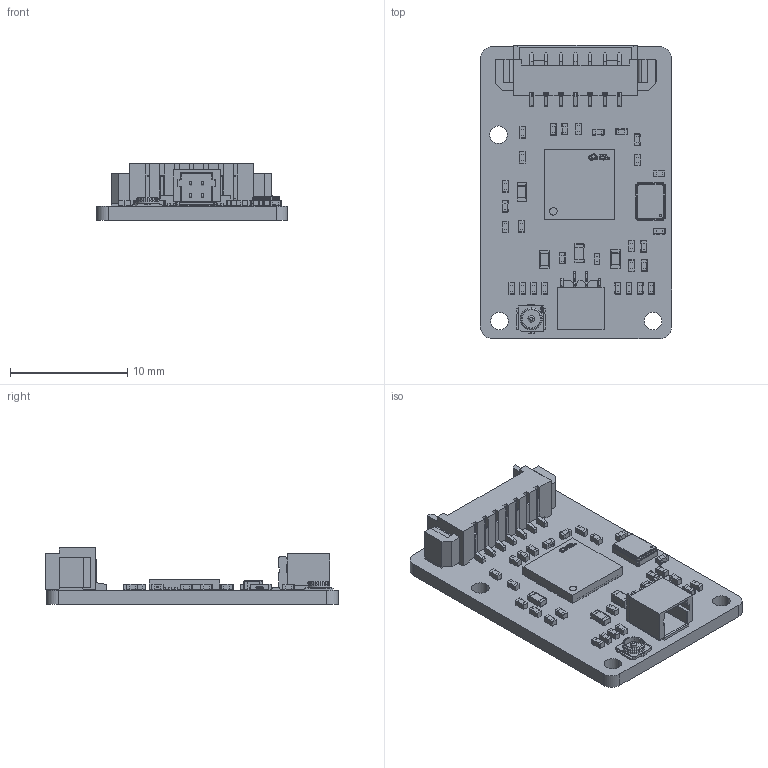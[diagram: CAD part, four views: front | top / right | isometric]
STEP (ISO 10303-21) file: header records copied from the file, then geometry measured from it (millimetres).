
FILE_DESCRIPTION(('Designed by EasyEDA Pro'),'2;1');
FILE_NAME('Open CASCADE Shape Model','2026-07-16T09:59:50',('Author'),( 'Open CASCADE'),'Open CASCADE STEP processor 7.8','Open CASCADE 7.8' ,'Unknown');
FILE_SCHEMA(('AUTOMOTIVE_DESIGN { 1 0 10303 214 1 1 1 1 }'));
Length unit declared in the file: millimetre
Products named in the file (55): EasyEDA PCB Model~T8eG; Board~T8eG; TopCopper~T8eG; BottomCopper~T8eG; TopSilkscreen~T8eG; BottomSilkscreen~T8eG; TopFpcStiffener~T8eG; BottomFpcStiffener~T8eG; 0402_Res~R0402_L1.0-W0.5-H0.5_NTC~LAHI; R28~0402_Res~R0402_L1.0-W0.5-H0.5_NTC~dcHI; R27~0402_Res~R0402_L1.0-W0.5-H0.5_NTC~6NCW; R24~0402_Res~R0402_L1.0-W0.5-H0.5_NTC~7SxO; R23~0402_Res~R0402_L1.0-W0.5-H0.5_NTC~q4Cr; R22~0402_Res~R0402_L1.0-W0.5-H0.5_NTC~B9n2; R21~0402_Res~R0402_L1.0-W0.5-H0.5_NTC~sH8O; R105~0402_Res~R0402_L1.0-W0.5-H0.5_NTC~BmtJ; R9~0402_Res~R0402_L1.0-W0.5-H0.5_NTC~GCKH; R4~0402_Res~R0402_L1.0-W0.5-H0.5_NTC~Avda; R1~0402_Res~R0402_L1.0-W0.5-H0.5_NTC~8oIU; R15~0402_Res~R0402_L1.0-W0.5-H0.5_NTC~Lkdt; R16~0402_Res~R0402_L1.0-W0.5-H0.5_NTC~7vLm; 0402_Res~C0402_L1.0-W0.5-H0.5~Ns4a; C97~0402_Res~C0402_L1.0-W0.5-H0.5~ORQJ; C94~0402_Res~C0402_L1.0-W0.5-H0.5~374M; C92~0402_Res~C0402_L1.0-W0.5-H0.5~pLHL; C91~0402_Res~C0402_L1.0-W0.5-H0.5~xbNQ; C59~0402_Res~C0402_L1.0-W0.5-H0.5~rAXD; C11~0402_Res~C0402_L1.0-W0.5-H0.5~jjU3; C19~0402_Res~C0402_L1.0-W0.5-H0.5~nyj5; C18~0402_Res~C0402_L1.0-W0.5-H0.5~imGY; C17~0402_Res~C0402_L1.0-W0.5-H0.5~sT6T; C16~0402_Res~C0402_L1.0-W0.5-H0.5~Kdg7; C15~0402_Res~C0402_L1.0-W0.5-H0.5~SXqj; C14~0402_Res~C0402_L1.0-W0.5-H0.5~qY1z; C13~0402_Res~C0402_L1.0-W0.5-H0.5~PvT0; C12~0402_Res~C0402_L1.0-W0.5-H0.5~RsGl; C10~0402_Res~C0402_L1.0-W0.5-H0.5~Dhq8; C9~0402_Res~C0402_L1.0-W0.5-H0.5~pPEt; C8~0402_Res~C0402_L1.0-W0.5-H0.5~Z1Gl; CONN-SMD_2P-P1.00_SHOU-HAN_1.0-2P-WT~CONN-SMD_2P-P1.00_SHOU-HAN_1.0-2P-WT~whv3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
Assembly tree (83 placements, depth 3):
  EasyEDA PCB Model~T8eG
    Board~T8eG
    TopCopper~T8eG
    BottomCopper~T8eG
    TopSilkscreen~T8eG
    BottomSilkscreen~T8eG
    TopFpcStiffener~T8eG
    BottomFpcStiffener~T8eG
    R28~0402_Res~R0402_L1.0-W0.5-H0.5_NTC~dcHI
      0402_Res~R0402_L1.0-W0.5-H0.5_NTC~LAHI
    R27~0402_Res~R0402_L1.0-W0.5-H0.5_NTC~6NCW
      0402_Res~R0402_L1.0-W0.5-H0.5_NTC~LAHI
    R24~0402_Res~R0402_L1.0-W0.5-H0.5_NTC~7SxO
      0402_Res~R0402_L1.0-W0.5-H0.5_NTC~LAHI
    R23~0402_Res~R0402_L1.0-W0.5-H0.5_NTC~q4Cr
      0402_Res~R0402_L1.0-W0.5-H0.5_NTC~LAHI
    R22~0402_Res~R0402_L1.0-W0.5-H0.5_NTC~B9n2
      0402_Res~R0402_L1.0-W0.5-H0.5_NTC~LAHI
    R21~0402_Res~R0402_L1.0-W0.5-H0.5_NTC~sH8O
      0402_Res~R0402_L1.0-W0.5-H0.5_NTC~LAHI
    R105~0402_Res~R0402_L1.0-W0.5-H0.5_NTC~BmtJ
      0402_Res~R0402_L1.0-W0.5-H0.5_NTC~LAHI
    R9~0402_Res~R0402_L1.0-W0.5-H0.5_NTC~GCKH
      0402_Res~R0402_L1.0-W0.5-H0.5_NTC~LAHI
    R4~0402_Res~R0402_L1.0-W0.5-H0.5_NTC~Avda
      0402_Res~R0402_L1.0-W0.5-H0.5_NTC~LAHI
    R1~0402_Res~R0402_L1.0-W0.5-H0.5_NTC~8oIU
      0402_Res~R0402_L1.0-W0.5-H0.5_NTC~LAHI
    R15~0402_Res~R0402_L1.0-W0.5-H0.5_NTC~Lkdt
      0402_Res~R0402_L1.0-W0.5-H0.5_NTC~LAHI
    R16~0402_Res~R0402_L1.0-W0.5-H0.5_NTC~7vLm
      0402_Res~R0402_L1.0-W0.5-H0.5_NTC~LAHI
    C97~0402_Res~C0402_L1.0-W0.5-H0.5~ORQJ
      0402_Res~C0402_L1.0-W0.5-H0.5~Ns4a
    C94~0402_Res~C0402_L1.0-W0.5-H0.5~374M
      0402_Res~C0402_L1.0-W0.5-H0.5~Ns4a
    C92~0402_Res~C0402_L1.0-W0.5-H0.5~pLHL
      0402_Res~C0402_L1.0-W0.5-H0.5~Ns4a
    C91~0402_Res~C0402_L1.0-W0.5-H0.5~xbNQ
      0402_Res~C0402_L1.0-W0.5-H0.5~Ns4a
    C59~0402_Res~C0402_L1.0-W0.5-H0.5~rAXD
      0402_Res~C0402_L1.0-W0.5-H0.5~Ns4a
    C11~0402_Res~C0402_L1.0-W0.5-H0.5~jjU3
      0402_Res~C0402_L1.0-W0.5-H0.5~Ns4a
    C19~0402_Res~C0402_L1.0-W0.5-H0.5~nyj5
      0402_Res~C0402_L1.0-W0.5-H0.5~Ns4a
    C18~0402_Res~C0402_L1.0-W0.5-H0.5~imGY
      0402_Res~C0402_L1.0-W0.5-H0.5~Ns4a
    C17~0402_Res~C0402_L1.0-W0.5-H0.5~sT6T
      0402_Res~C0402_L1.0-W0.5-H0.5~Ns4a
    C16~0402_Res~C0402_L1.0-W0.5-H0.5~Kdg7
      0402_Res~C0402_L1.0-W0.5-H0.5~Ns4a
    C15~0402_Res~C0402_L1.0-W0.5-H0.5~SXqj
      0402_Res~C0402_L1.0-W0.5-H0.5~Ns4a
    C14~0402_Res~C0402_L1.0-W0.5-H0.5~qY1z
      0402_Res~C0402_L1.0-W0.5-H0.5~Ns4a
    C13~0402_Res~C0402_L1.0-W0.5-H0.5~PvT0
      0402_Res~C0402_L1.0-W0.5-H0.5~Ns4a
    C12~0402_Res~C0402_L1.0-W0.5-H0.5~RsGl
      0402_Res~C0402_L1.0-W0.5-H0.5~Ns4a
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Bounding box: 16.33 x 25.06 x 4.82 mm (x, y, z)
Volume: 643.4 mm3; surface area: 1827.6 mm2
Topology: 146 solids, 146 shells, 13832 faces, 36795 edges, 23876 vertices
Faces by surface type: plane 7874, bspline 3990, cylinder 1706, sphere 240, torus 16, cone 6
Full cylindrical faces by diameter (mm): 0.189 x1
Entity records: 176355 total; most frequent: CARTESIAN_POINT 37436, ORIENTED_EDGE 21614, DIRECTION 16227, EDGE_CURVE 10807, LINE 7745, VECTOR 7745, VERTEX_POINT 7146, EDGE_LOOP 4307
